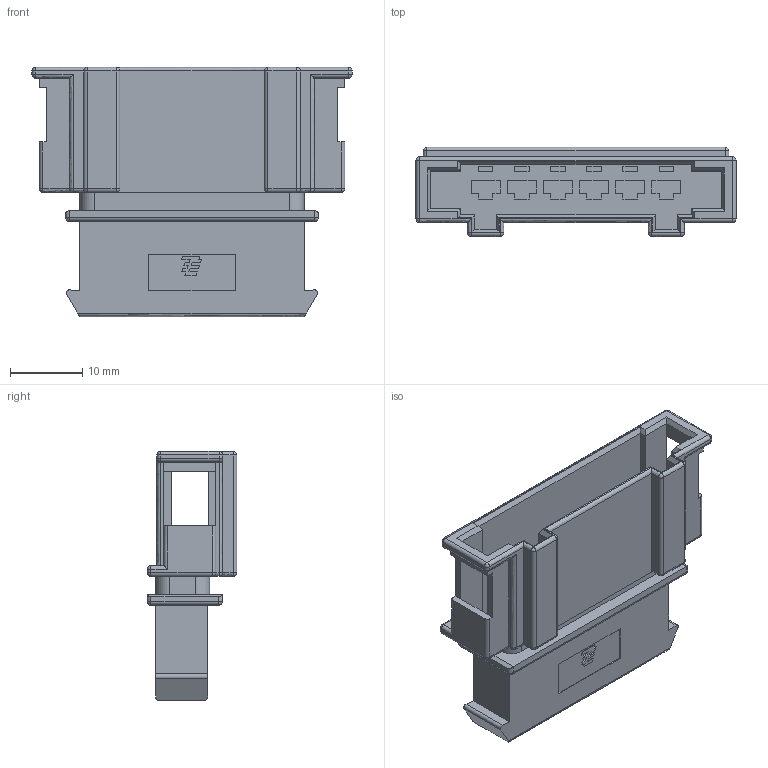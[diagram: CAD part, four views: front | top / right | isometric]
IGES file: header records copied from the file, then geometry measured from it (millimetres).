
Start section:  PTC IGES file: c-1563772-1-a-3d.igs
Global section: file name: c-1563772-1-a-3d.igs; native system: Pro/ENGINEER by Parametric Technology Corporation; preprocessor: 2009300; author: workeradm; organization: Unknown; units: millimetre
Bounding box: 44.3 x 12.4 x 34.5 mm (x, y, z)
Surface area: 6113.6 mm2 (no closed solid volume)
Topology: 0 solids, 0 shells, 417 faces, 2098 edges, 2098 vertices
Faces by surface type: bspline 319, revolution 98
